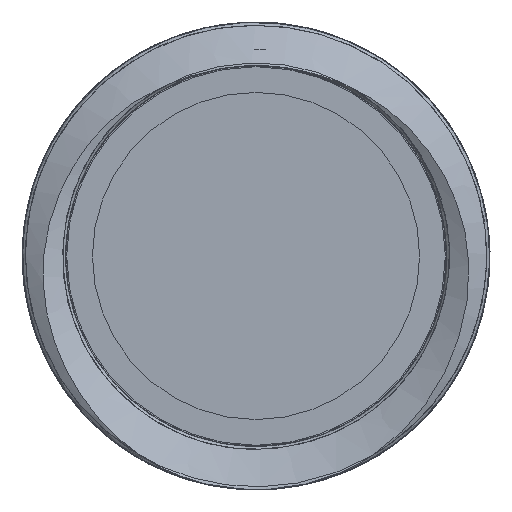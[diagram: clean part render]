
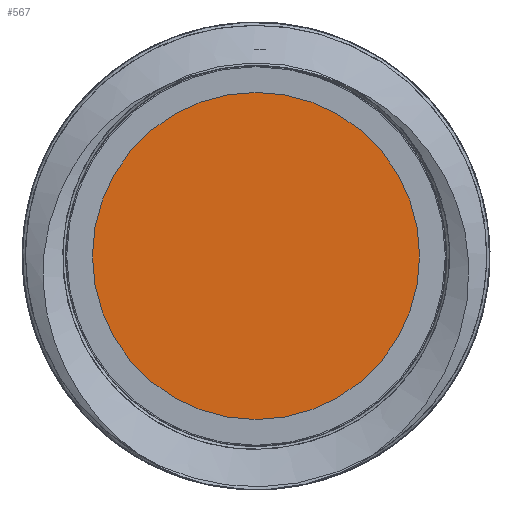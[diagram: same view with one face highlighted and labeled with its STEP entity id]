
A CAD part, front view. The second image highlights one B-rep face of the part: STEP entity #567.
In plain terms, the highlighted planar face has unit normal (0, -1, 0).
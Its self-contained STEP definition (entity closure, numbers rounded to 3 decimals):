
#47=PLANE('',#615);
#71=CIRCLE('',#613,1.4);
#86=FACE_OUTER_BOUND('',#130,.T.);
#130=EDGE_LOOP('',(#394));
#241=VERTEX_POINT('',#767);
#302=EDGE_CURVE('',#241,#241,#71,.T.);
#394=ORIENTED_EDGE('',*,*,#302,.T.);
#567=ADVANCED_FACE('',(#86),#47,.T.);
#613=AXIS2_PLACEMENT_3D('',#768,#664,#665);
#615=AXIS2_PLACEMENT_3D('',#771,#668,#669);
#664=DIRECTION('center_axis',(0.,-1.,0.));
#665=DIRECTION('ref_axis',(-1.,0.,0.));
#668=DIRECTION('center_axis',(0.,-1.,0.));
#669=DIRECTION('ref_axis',(0.,0.,-1.));
#767=CARTESIAN_POINT('',(1.4,-75.,0.));
#768=CARTESIAN_POINT('Origin',(0.,-75.,0.));
#771=CARTESIAN_POINT('Origin',(0.,-75.,0.));
